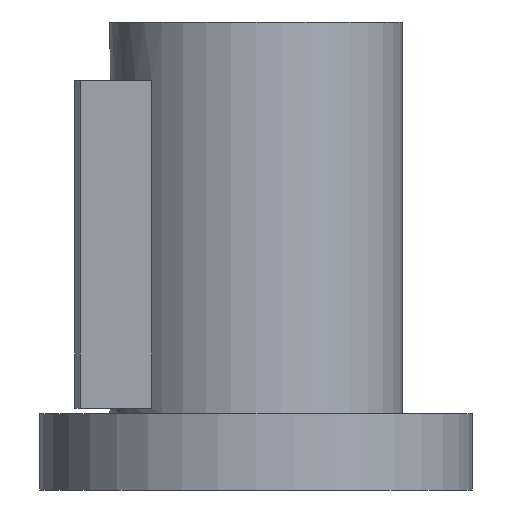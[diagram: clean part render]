
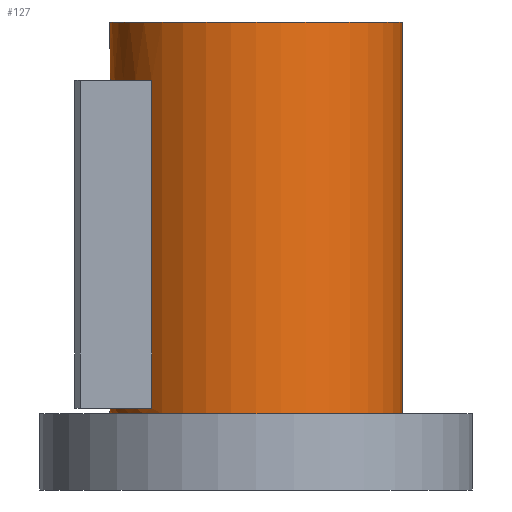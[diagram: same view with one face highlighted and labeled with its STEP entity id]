
A CAD part, front view. The second image highlights one B-rep face of the part: STEP entity #127.
In plain terms, the highlighted cylindrical face has radius 25 mm (diameter 50 mm), a full revolution.
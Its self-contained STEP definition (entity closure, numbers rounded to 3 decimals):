
#127=ADVANCED_FACE('',(#200,#201,#202),#155,.T.);
#155=CYLINDRICAL_SURFACE('',#508,25.);
#168=LINE('',#698,#184);
#169=LINE('',#702,#185);
#184=VECTOR('',#568,1.);
#185=VECTOR('',#571,1.);
#200=FACE_BOUND('',#245,.T.);
#201=FACE_BOUND('',#246,.T.);
#202=FACE_BOUND('',#247,.T.);
#245=EDGE_LOOP('',(#305));
#246=EDGE_LOOP('',(#306));
#247=EDGE_LOOP('',(#307,#308,#309,#310));
#305=ORIENTED_EDGE('',*,*,#431,.F.);
#306=ORIENTED_EDGE('',*,*,#432,.T.);
#307=ORIENTED_EDGE('',*,*,#433,.F.);
#308=ORIENTED_EDGE('',*,*,#434,.F.);
#309=ORIENTED_EDGE('',*,*,#435,.T.);
#310=ORIENTED_EDGE('',*,*,#436,.F.);
#393=VERTEX_POINT('',#692);
#394=VERTEX_POINT('',#694);
#395=VERTEX_POINT('',#696);
#396=VERTEX_POINT('',#697);
#397=VERTEX_POINT('',#699);
#398=VERTEX_POINT('',#701);
#431=EDGE_CURVE('',#393,#393,#475,.T.);
#432=EDGE_CURVE('',#394,#394,#476,.T.);
#433=EDGE_CURVE('',#395,#396,#477,.T.);
#434=EDGE_CURVE('',#397,#395,#168,.T.);
#435=EDGE_CURVE('',#397,#398,#478,.T.);
#436=EDGE_CURVE('',#396,#398,#169,.T.);
#475=CIRCLE('',#504,25.);
#476=CIRCLE('',#505,25.);
#477=CIRCLE('',#506,25.);
#478=CIRCLE('',#507,25.);
#504=AXIS2_PLACEMENT_3D('',#691,#562,#563);
#505=AXIS2_PLACEMENT_3D('',#693,#564,#565);
#506=AXIS2_PLACEMENT_3D('',#695,#566,#567);
#507=AXIS2_PLACEMENT_3D('',#700,#569,#570);
#508=AXIS2_PLACEMENT_3D('',#703,#572,#573);
#562=DIRECTION('',(0.,0.,1.));
#563=DIRECTION('',(1.,0.,0.));
#564=DIRECTION('',(0.,0.,1.));
#565=DIRECTION('',(1.,0.,0.));
#566=DIRECTION('',(0.,0.,-1.));
#567=DIRECTION('',(-1.,0.,0.));
#568=DIRECTION('',(0.,0.,1.));
#569=DIRECTION('',(0.,0.,-1.));
#570=DIRECTION('',(-1.,0.,0.));
#571=DIRECTION('',(0.,0.,-1.));
#572=DIRECTION('',(0.,0.,-1.));
#573=DIRECTION('',(-1.,0.,0.));
#691=CARTESIAN_POINT('',(0.,0.,80.));
#692=CARTESIAN_POINT('',(25.,0.,80.));
#693=CARTESIAN_POINT('',(0.,0.,13.));
#694=CARTESIAN_POINT('',(25.,0.,13.));
#695=CARTESIAN_POINT('',(0.,0.,70.));
#696=CARTESIAN_POINT('',(-17.854,-17.5,70.));
#697=CARTESIAN_POINT('',(-17.854,17.5,70.));
#698=CARTESIAN_POINT('',(-17.854,-17.5,80.));
#699=CARTESIAN_POINT('',(-17.854,-17.5,14.));
#700=CARTESIAN_POINT('',(0.,0.,14.));
#701=CARTESIAN_POINT('',(-17.854,17.5,14.));
#702=CARTESIAN_POINT('',(-17.854,17.5,80.));
#703=CARTESIAN_POINT('',(0.,0.,80.));
